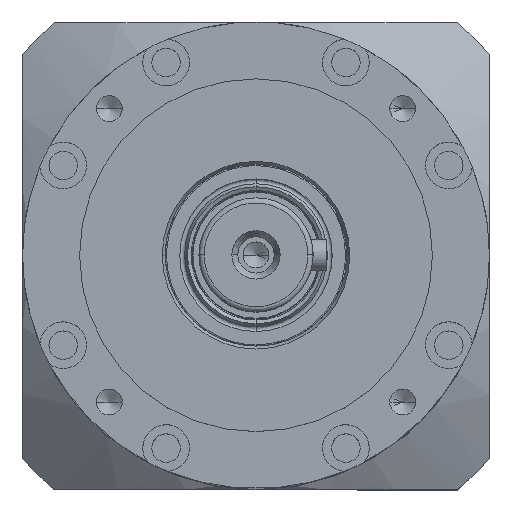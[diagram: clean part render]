
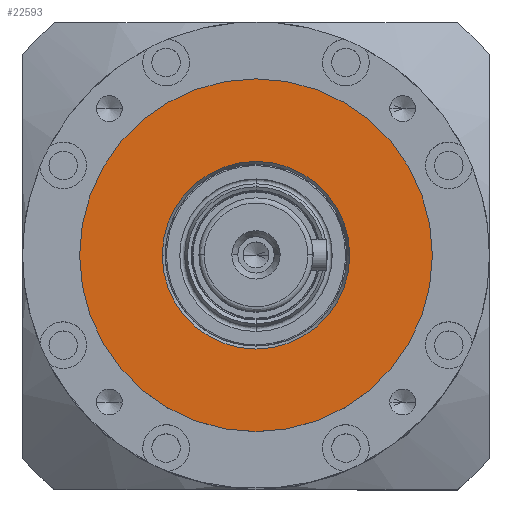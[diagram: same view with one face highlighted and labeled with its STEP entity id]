
A CAD part, top view. The second image highlights one B-rep face of the part: STEP entity #22593.
In plain terms, the highlighted planar face has unit normal (0, 0, 1).
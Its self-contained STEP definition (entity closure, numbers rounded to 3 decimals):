
#92 = ORIENTED_EDGE ( 'NONE', *, *, #20820, .F. ) ;
#346 = DIRECTION ( 'NONE',  ( 1., 0., 0. ) ) ;
#547 = CIRCLE ( 'NONE', #8746, 18.077 ) ;
#1126 = DIRECTION ( 'NONE',  ( 0., 0., -1. ) ) ;
#1552 = VERTEX_POINT ( 'NONE', #21058 ) ;
#2350 = CARTESIAN_POINT ( 'NONE',  ( 34., 0., 0. ) ) ;
#3417 = CARTESIAN_POINT ( 'NONE',  ( 0., 0., 0. ) ) ;
#3984 = DIRECTION ( 'NONE',  ( 0., 0., 1. ) ) ;
#4482 = EDGE_CURVE ( 'NONE', #1552, #19494, #547, .T. ) ;
#5223 = DIRECTION ( 'NONE',  ( 1., 0., 0. ) ) ;
#5241 = PLANE ( 'NONE',  #13806 ) ;
#6263 = EDGE_CURVE ( 'NONE', #19494, #1552, #17167, .T. ) ;
#7066 = DIRECTION ( 'NONE',  ( 0., 0., -1. ) ) ;
#7282 = EDGE_LOOP ( 'NONE', ( #21820, #17929 ) ) ;
#7694 = CIRCLE ( 'NONE', #10809, 34. ) ;
#8746 = AXIS2_PLACEMENT_3D ( 'NONE', #22054, #11213, #346 ) ;
#9147 = ORIENTED_EDGE ( 'NONE', *, *, #10350, .F. ) ;
#10350 = EDGE_CURVE ( 'NONE', #11422, #20225, #7694, .T. ) ;
#10609 = CARTESIAN_POINT ( 'NONE',  ( 0., 17.5, 0. ) ) ;
#10809 = AXIS2_PLACEMENT_3D ( 'NONE', #3417, #16032, #5223 ) ;
#10850 = CARTESIAN_POINT ( 'NONE',  ( 18.077, 0., 0. ) ) ;
#11213 = DIRECTION ( 'NONE',  ( 0., 0., 1. ) ) ;
#11422 = VERTEX_POINT ( 'NONE', #13075 ) ;
#11966 = CARTESIAN_POINT ( 'NONE',  ( 0., 0., 0. ) ) ;
#12533 = FACE_OUTER_BOUND ( 'NONE', #23454, .T. ) ;
#12877 = AXIS2_PLACEMENT_3D ( 'NONE', #14782, #3984, #16631 ) ;
#13075 = CARTESIAN_POINT ( 'NONE',  ( -34., 0., 0. ) ) ;
#13775 = DIRECTION ( 'NONE',  ( 1., 0., 0. ) ) ;
#13806 = AXIS2_PLACEMENT_3D ( 'NONE', #10609, #7066, #19719 ) ;
#14782 = CARTESIAN_POINT ( 'NONE',  ( 0., 0., 0. ) ) ;
#15099 = CIRCLE ( 'NONE', #17720, 34. ) ;
#16032 = DIRECTION ( 'NONE',  ( 0., 0., -1. ) ) ;
#16631 = DIRECTION ( 'NONE',  ( 1., 0., 0. ) ) ;
#17167 = CIRCLE ( 'NONE', #12877, 18.077 ) ;
#17720 = AXIS2_PLACEMENT_3D ( 'NONE', #11966, #1126, #13775 ) ;
#17929 = ORIENTED_EDGE ( 'NONE', *, *, #4482, .F. ) ;
#19494 = VERTEX_POINT ( 'NONE', #10850 ) ;
#19719 = DIRECTION ( 'NONE',  ( -1., 0., 0. ) ) ;
#20225 = VERTEX_POINT ( 'NONE', #2350 ) ;
#20820 = EDGE_CURVE ( 'NONE', #20225, #11422, #15099, .T. ) ;
#21058 = CARTESIAN_POINT ( 'NONE',  ( -18.077, 0., 0. ) ) ;
#21820 = ORIENTED_EDGE ( 'NONE', *, *, #6263, .F. ) ;
#22054 = CARTESIAN_POINT ( 'NONE',  ( 0., 0., 0. ) ) ;
#22190 = FACE_BOUND ( 'NONE', #7282, .T. ) ;
#22593 = ADVANCED_FACE ( 'NONE', ( #12533, #22190 ), #5241, .F. ) ;
#23454 = EDGE_LOOP ( 'NONE', ( #92, #9147 ) ) ;
